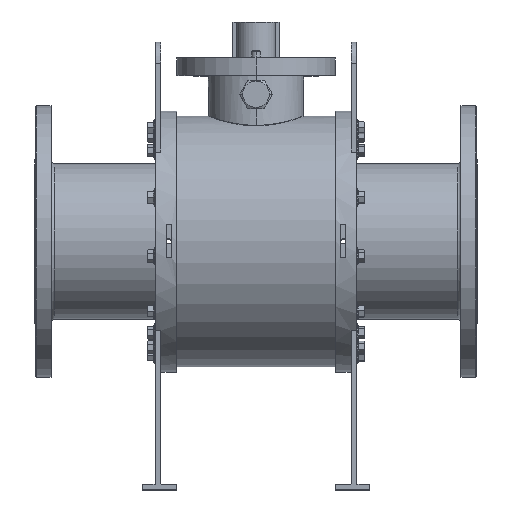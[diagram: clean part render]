
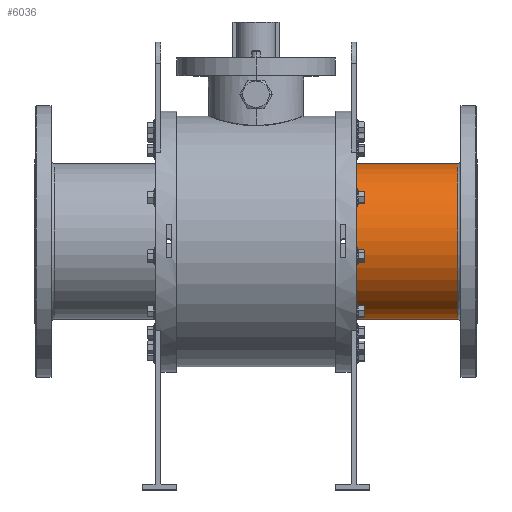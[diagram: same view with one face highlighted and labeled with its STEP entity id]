
A CAD part, top view. The second image highlights one B-rep face of the part: STEP entity #6036.
In plain terms, the highlighted cylindrical face has radius 147 mm (diameter 294 mm), a partial arc.
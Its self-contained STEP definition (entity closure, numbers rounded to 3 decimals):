
#578 = CARTESIAN_POINT ( 'NONE',  ( 190., 0., 0. ) ) ;
#818 = ORIENTED_EDGE ( 'NONE', *, *, #10003, .T. ) ;
#1032 = DIRECTION ( 'NONE',  ( 0., -1., 0. ) ) ;
#1166 = DIRECTION ( 'NONE',  ( -1., 0., 0. ) ) ;
#1342 = EDGE_CURVE ( 'NONE', #3732, #4654, #7477, .T. ) ;
#1361 = AXIS2_PLACEMENT_3D ( 'NONE', #12647, #11721, #9395 ) ;
#2083 = DIRECTION ( 'NONE',  ( -1., 0., 0. ) ) ;
#2551 = EDGE_LOOP ( 'NONE', ( #6707, #12813, #818, #12429 ) ) ;
#2561 = VECTOR ( 'NONE', #1166, 1000. ) ;
#2794 = DIRECTION ( 'NONE',  ( -1., 0., 0. ) ) ;
#3725 = CARTESIAN_POINT ( 'NONE',  ( 382., -147., 0. ) ) ;
#3732 = VERTEX_POINT ( 'NONE', #3725 ) ;
#3969 = AXIS2_PLACEMENT_3D ( 'NONE', #11007, #2083, #1032 ) ;
#4521 = EDGE_CURVE ( 'NONE', #3732, #8495, #13059, .T. ) ;
#4654 = VERTEX_POINT ( 'NONE', #4754 ) ;
#4754 = CARTESIAN_POINT ( 'NONE',  ( 382., 147., 0. ) ) ;
#5874 = EDGE_CURVE ( 'NONE', #4654, #6002, #7343, .T. ) ;
#6002 = VERTEX_POINT ( 'NONE', #12994 ) ;
#6014 = AXIS2_PLACEMENT_3D ( 'NONE', #578, #9217, #13533 ) ;
#6036 = ADVANCED_FACE ( 'NONE', ( #6541 ), #11795, .T. ) ;
#6541 = FACE_OUTER_BOUND ( 'NONE', #2551, .T. ) ;
#6707 = ORIENTED_EDGE ( 'NONE', *, *, #1342, .T. ) ;
#7343 = LINE ( 'NONE', #10598, #11674 ) ;
#7477 = CIRCLE ( 'NONE', #1361, 147. ) ;
#7608 = CARTESIAN_POINT ( 'NONE',  ( -419., -147., 0. ) ) ;
#8495 = VERTEX_POINT ( 'NONE', #10109 ) ;
#8741 = CIRCLE ( 'NONE', #6014, 147. ) ;
#9217 = DIRECTION ( 'NONE',  ( 1., 0., 0. ) ) ;
#9395 = DIRECTION ( 'NONE',  ( 0., 1., 0. ) ) ;
#10003 = EDGE_CURVE ( 'NONE', #6002, #8495, #8741, .T. ) ;
#10109 = CARTESIAN_POINT ( 'NONE',  ( 190., -147., 0. ) ) ;
#10598 = CARTESIAN_POINT ( 'NONE',  ( -419., 147., 0. ) ) ;
#11007 = CARTESIAN_POINT ( 'NONE',  ( -419., 0., 0. ) ) ;
#11674 = VECTOR ( 'NONE', #2794, 1000. ) ;
#11721 = DIRECTION ( 'NONE',  ( -1., 0., 0. ) ) ;
#11795 = CYLINDRICAL_SURFACE ( 'NONE', #3969, 147. ) ;
#12429 = ORIENTED_EDGE ( 'NONE', *, *, #4521, .F. ) ;
#12647 = CARTESIAN_POINT ( 'NONE',  ( 382., 0., 0. ) ) ;
#12813 = ORIENTED_EDGE ( 'NONE', *, *, #5874, .T. ) ;
#12994 = CARTESIAN_POINT ( 'NONE',  ( 190., 147., 0. ) ) ;
#13059 = LINE ( 'NONE', #7608, #2561 ) ;
#13533 = DIRECTION ( 'NONE',  ( 0., 0., -1. ) ) ;
